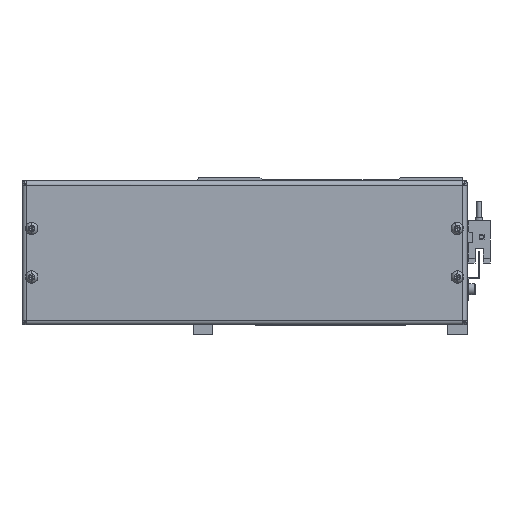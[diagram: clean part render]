
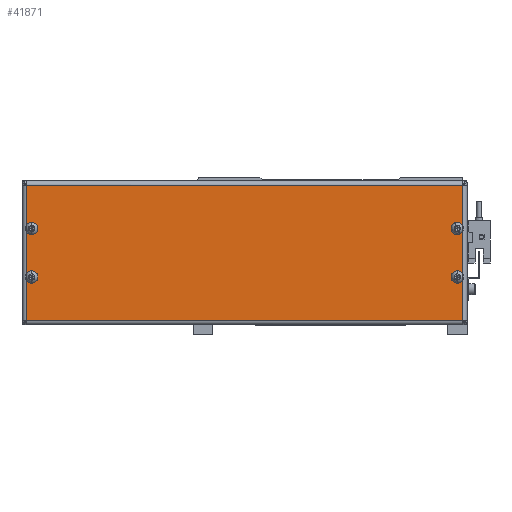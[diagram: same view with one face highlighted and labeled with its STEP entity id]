
A CAD part, front view. The second image highlights one B-rep face of the part: STEP entity #41871.
In plain terms, the highlighted planar face has unit normal (0, -1, 0) as drawn and (0, 0, -1) by its records, which use the part's own axes.
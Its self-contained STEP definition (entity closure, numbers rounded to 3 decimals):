
#982 = FACE_BOUND ( 'NONE', #24198, .T. ) ;
#1053 = DIRECTION ( 'NONE',  ( -1., 0., 0. ) ) ;
#1311 = VERTEX_POINT ( 'NONE', #51004 ) ;
#1512 = ORIENTED_EDGE ( 'NONE', *, *, #31365, .T. ) ;
#2535 = DIRECTION ( 'NONE',  ( -1., 0., 0. ) ) ;
#3492 = PLANE ( 'NONE',  #13359 ) ;
#3573 = LINE ( 'NONE', #44120, #30416 ) ;
#3800 = CARTESIAN_POINT ( 'NONE',  ( 69.267, 30.706, -242.5 ) ) ;
#4699 = CIRCLE ( 'NONE', #10841, 2.25 ) ;
#5179 = CARTESIAN_POINT ( 'NONE',  ( 72.531, -26.058, -242.5 ) ) ;
#6663 = CARTESIAN_POINT ( 'NONE',  ( -193.733, 30.706, -242.5 ) ) ;
#6941 = DIRECTION ( 'NONE',  ( -1., 0., 0. ) ) ;
#7052 = LINE ( 'NONE', #43476, #10991 ) ;
#7307 = LINE ( 'NONE', #53996, #59368 ) ;
#7625 = CARTESIAN_POINT ( 'NONE',  ( 69.267, 0.706, -242.5 ) ) ;
#9339 = ORIENTED_EDGE ( 'NONE', *, *, #61165, .F. ) ;
#9707 = FACE_BOUND ( 'NONE', #56890, .T. ) ;
#9976 = EDGE_CURVE ( 'NONE', #57494, #65438, #15599, .T. ) ;
#10841 = AXIS2_PLACEMENT_3D ( 'NONE', #12512, #27747, #2535 ) ;
#10991 = VECTOR ( 'NONE', #58436, 1000. ) ;
#11376 = AXIS2_PLACEMENT_3D ( 'NONE', #7625, #47536, #27508 ) ;
#11574 = DIRECTION ( 'NONE',  ( 0., 0., -1. ) ) ;
#11733 = DIRECTION ( 'NONE',  ( 0., 0., -1. ) ) ;
#11769 = CARTESIAN_POINT ( 'NONE',  ( 69.267, 0.706, -242.5 ) ) ;
#12512 = CARTESIAN_POINT ( 'NONE',  ( -193.733, 30.706, -242.5 ) ) ;
#12542 = AXIS2_PLACEMENT_3D ( 'NONE', #3800, #28345, #48816 ) ;
#12816 = FACE_OUTER_BOUND ( 'NONE', #17951, .T. ) ;
#13319 = DIRECTION ( 'NONE',  ( -1., 0., 0. ) ) ;
#13359 = AXIS2_PLACEMENT_3D ( 'NONE', #27816, #53123, #58219 ) ;
#15599 = CIRCLE ( 'NONE', #12542, 2.25 ) ;
#15663 = EDGE_CURVE ( 'NONE', #22394, #64972, #56179, .T. ) ;
#17951 = EDGE_LOOP ( 'NONE', ( #1512, #52015, #40871, #60162 ) ) ;
#19300 = EDGE_CURVE ( 'NONE', #53871, #1311, #56531, .T. ) ;
#20153 = ORIENTED_EDGE ( 'NONE', *, *, #28518, .F. ) ;
#20155 = EDGE_CURVE ( 'NONE', #21812, #47831, #3573, .T. ) ;
#20418 = ORIENTED_EDGE ( 'NONE', *, *, #23751, .F. ) ;
#20547 = EDGE_CURVE ( 'NONE', #64972, #22394, #4699, .T. ) ;
#20767 = CARTESIAN_POINT ( 'NONE',  ( -196.996, 57.469, -242.5 ) ) ;
#21521 = ORIENTED_EDGE ( 'NONE', *, *, #19300, .F. ) ;
#21812 = VERTEX_POINT ( 'NONE', #20767 ) ;
#22394 = VERTEX_POINT ( 'NONE', #46038 ) ;
#23751 = EDGE_CURVE ( 'NONE', #27258, #44623, #24603, .T. ) ;
#24051 = DIRECTION ( 'NONE',  ( 1., 0., 0. ) ) ;
#24198 = EDGE_LOOP ( 'NONE', ( #20418, #9339 ) ) ;
#24603 = CIRCLE ( 'NONE', #52699, 2.25 ) ;
#26949 = DIRECTION ( 'NONE',  ( -1., 0., 0. ) ) ;
#27258 = VERTEX_POINT ( 'NONE', #63248 ) ;
#27399 = CARTESIAN_POINT ( 'NONE',  ( -191.483, 30.706, -242.5 ) ) ;
#27478 = ORIENTED_EDGE ( 'NONE', *, *, #63614, .F. ) ;
#27508 = DIRECTION ( 'NONE',  ( -1., 0., 0. ) ) ;
#27747 = DIRECTION ( 'NONE',  ( 0., 0., -1. ) ) ;
#27816 = CARTESIAN_POINT ( 'NONE',  ( 46.617, 5.246, -242.5 ) ) ;
#28345 = DIRECTION ( 'NONE',  ( 0., 0., -1. ) ) ;
#28518 = EDGE_CURVE ( 'NONE', #65438, #57494, #50080, .T. ) ;
#28779 = CARTESIAN_POINT ( 'NONE',  ( -193.733, 0.706, -242.5 ) ) ;
#28895 = CIRCLE ( 'NONE', #11376, 2.25 ) ;
#29000 = CARTESIAN_POINT ( 'NONE',  ( 72.56, -26.058, -242.5 ) ) ;
#30416 = VECTOR ( 'NONE', #24051, 1000. ) ;
#31103 = CARTESIAN_POINT ( 'NONE',  ( -193.733, 0.706, -242.5 ) ) ;
#31311 = DIRECTION ( 'NONE',  ( 0., 0., -1. ) ) ;
#31365 = EDGE_CURVE ( 'NONE', #34884, #44254, #55168, .T. ) ;
#31615 = DIRECTION ( 'NONE',  ( 0., 0., -1. ) ) ;
#32246 = AXIS2_PLACEMENT_3D ( 'NONE', #11769, #11574, #36492 ) ;
#32659 = CIRCLE ( 'NONE', #43845, 2.25 ) ;
#34702 = ORIENTED_EDGE ( 'NONE', *, *, #15663, .F. ) ;
#34884 = VERTEX_POINT ( 'NONE', #5179 ) ;
#36492 = DIRECTION ( 'NONE',  ( -1., 0., 0. ) ) ;
#38961 = AXIS2_PLACEMENT_3D ( 'NONE', #6663, #11733, #26949 ) ;
#40871 = ORIENTED_EDGE ( 'NONE', *, *, #20155, .T. ) ;
#41741 = CARTESIAN_POINT ( 'NONE',  ( 67.017, 30.706, -242.5 ) ) ;
#41871 = ADVANCED_FACE ( 'NONE', ( #982, #9707, #42055, #60919, #12816 ), #3492, .T. ) ;
#42004 = EDGE_CURVE ( 'NONE', #44254, #21812, #7307, .T. ) ;
#42055 = FACE_BOUND ( 'NONE', #55251, .T. ) ;
#43476 = CARTESIAN_POINT ( 'NONE',  ( 72.531, 57.499, -242.5 ) ) ;
#43487 = CARTESIAN_POINT ( 'NONE',  ( 71.517, 0.706, -242.5 ) ) ;
#43845 = AXIS2_PLACEMENT_3D ( 'NONE', #28779, #48808, #13319 ) ;
#43989 = DIRECTION ( 'NONE',  ( -1., 0., 0. ) ) ;
#44120 = CARTESIAN_POINT ( 'NONE',  ( -197.026, 57.469, -242.5 ) ) ;
#44254 = VERTEX_POINT ( 'NONE', #47779 ) ;
#44623 = VERTEX_POINT ( 'NONE', #60286 ) ;
#46038 = CARTESIAN_POINT ( 'NONE',  ( -195.983, 30.706, -242.5 ) ) ;
#47536 = DIRECTION ( 'NONE',  ( 0., 0., -1. ) ) ;
#47779 = CARTESIAN_POINT ( 'NONE',  ( -196.996, -26.058, -242.5 ) ) ;
#47831 = VERTEX_POINT ( 'NONE', #52188 ) ;
#48736 = ORIENTED_EDGE ( 'NONE', *, *, #20547, .F. ) ;
#48808 = DIRECTION ( 'NONE',  ( 0., 0., -1. ) ) ;
#48816 = DIRECTION ( 'NONE',  ( -1., 0., 0. ) ) ;
#50080 = CIRCLE ( 'NONE', #60925, 2.25 ) ;
#50586 = EDGE_LOOP ( 'NONE', ( #27478, #21521 ) ) ;
#51004 = CARTESIAN_POINT ( 'NONE',  ( 67.017, 0.706, -242.5 ) ) ;
#52015 = ORIENTED_EDGE ( 'NONE', *, *, #42004, .T. ) ;
#52188 = CARTESIAN_POINT ( 'NONE',  ( 72.531, 57.469, -242.5 ) ) ;
#52699 = AXIS2_PLACEMENT_3D ( 'NONE', #31103, #31311, #1053 ) ;
#53123 = DIRECTION ( 'NONE',  ( 0., 0., -1. ) ) ;
#53871 = VERTEX_POINT ( 'NONE', #43487 ) ;
#53996 = CARTESIAN_POINT ( 'NONE',  ( -196.996, -26.087, -242.5 ) ) ;
#54219 = DIRECTION ( 'NONE',  ( 0., 1., 0. ) ) ;
#55168 = LINE ( 'NONE', #29000, #61471 ) ;
#55251 = EDGE_LOOP ( 'NONE', ( #58277, #20153 ) ) ;
#56179 = CIRCLE ( 'NONE', #38961, 2.25 ) ;
#56531 = CIRCLE ( 'NONE', #32246, 2.25 ) ;
#56890 = EDGE_LOOP ( 'NONE', ( #34702, #48736 ) ) ;
#57193 = CARTESIAN_POINT ( 'NONE',  ( 69.267, 30.706, -242.5 ) ) ;
#57494 = VERTEX_POINT ( 'NONE', #41741 ) ;
#58219 = DIRECTION ( 'NONE',  ( -1., 0., 0. ) ) ;
#58277 = ORIENTED_EDGE ( 'NONE', *, *, #9976, .F. ) ;
#58436 = DIRECTION ( 'NONE',  ( 0., -1., 0. ) ) ;
#59368 = VECTOR ( 'NONE', #54219, 1000. ) ;
#60162 = ORIENTED_EDGE ( 'NONE', *, *, #60374, .T. ) ;
#60286 = CARTESIAN_POINT ( 'NONE',  ( -191.483, 0.706, -242.5 ) ) ;
#60374 = EDGE_CURVE ( 'NONE', #47831, #34884, #7052, .T. ) ;
#60919 = FACE_BOUND ( 'NONE', #50586, .T. ) ;
#60925 = AXIS2_PLACEMENT_3D ( 'NONE', #57193, #31615, #6941 ) ;
#61165 = EDGE_CURVE ( 'NONE', #44623, #27258, #32659, .T. ) ;
#61471 = VECTOR ( 'NONE', #43989, 1000. ) ;
#63248 = CARTESIAN_POINT ( 'NONE',  ( -195.983, 0.706, -242.5 ) ) ;
#63614 = EDGE_CURVE ( 'NONE', #1311, #53871, #28895, .T. ) ;
#64952 = CARTESIAN_POINT ( 'NONE',  ( 71.517, 30.706, -242.5 ) ) ;
#64972 = VERTEX_POINT ( 'NONE', #27399 ) ;
#65438 = VERTEX_POINT ( 'NONE', #64952 ) ;
